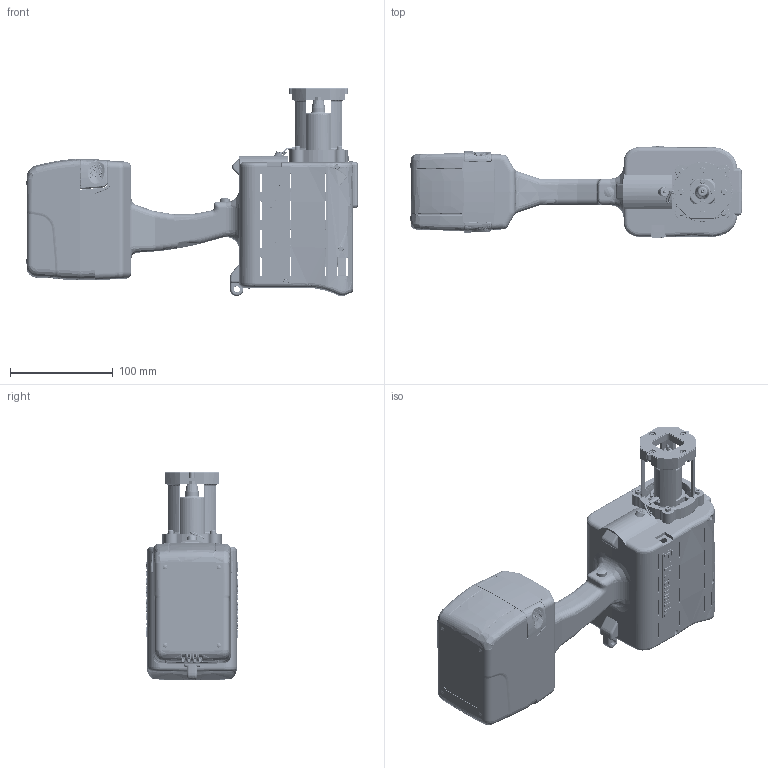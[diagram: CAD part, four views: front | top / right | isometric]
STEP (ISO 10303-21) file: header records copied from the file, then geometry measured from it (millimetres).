
FILE_DESCRIPTION (( 'STEP AP203' ), '1' );
FILE_NAME ('Patmark-mini_180611 HP—p 3D Battery type.STEP', '2018-12-05T06:22:19', ( '' ), ( '' ), 'SwSTEP 2.0', 'SolidWorks 2016', '' );
FILE_SCHEMA (( 'CONFIG_CONTROL_DESIGN' ));
Length unit declared in the file: millimetre
Products named in the file (1): Patmark-mini_180611 HP用 3D Battery type
Bounding box: 323 x 89.2 x 202.55 mm (x, y, z)
Volume: 542496.4 mm3; surface area: 394192.9 mm2
Topology: 9 solids, 47 shells, 6610 faces, 17571 edges, 11100 vertices
Faces by surface type: plane 2623, cylinder 1697, bspline 1208, cone 770, torus 265, sphere 47
Entity records: 300992 total; most frequent: CARTESIAN_POINT 146908, ORIENTED_EDGE 34828, DIRECTION 28885, EDGE_CURVE 17414, VERTEX_POINT 11084, AXIS2_PLACEMENT_3D 10221, VECTOR 8443, LINE 8443
